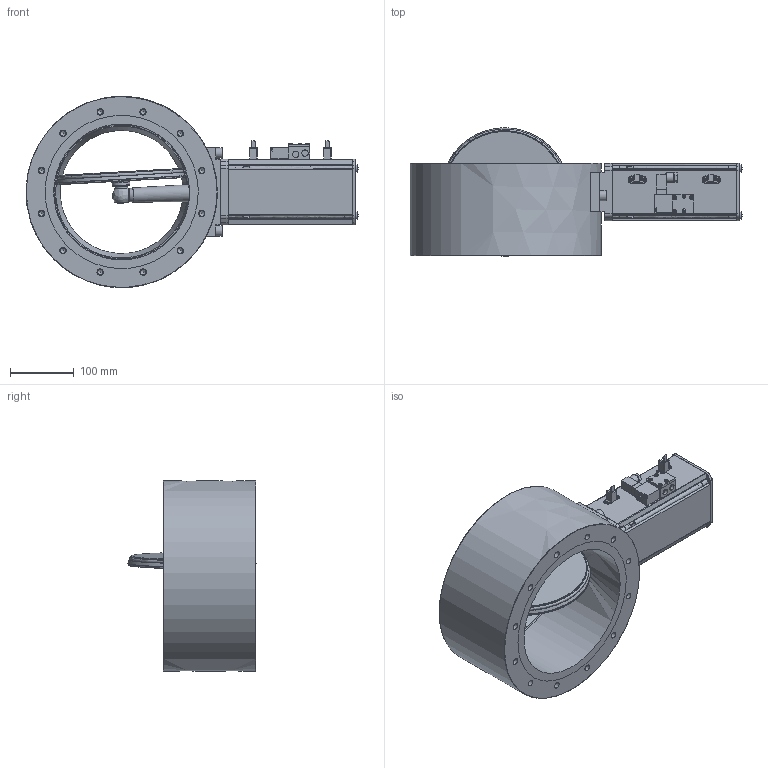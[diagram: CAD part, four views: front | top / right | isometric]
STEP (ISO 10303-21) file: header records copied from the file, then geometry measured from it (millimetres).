
FILE_DESCRIPTION((''),'2;1');
FILE_NAME('O:\MT\MT\Systeme\Cad\Datenexporte\www_vat_ch\245071.stp','2004-06-18T14:04:10',('User'),('SDRC'),'I-DEAS Master Series 9','UNIX','Yes');
FILE_SCHEMA(('CONFIG_CONTROL_DESIGN'));
Length unit declared in the file: millimetre
Assembly tree (52 placements, depth 0):
Bounding box: 520.44 x 201.05 x 299.57 mm (x, y, z)
Volume: 6639454.6 mm3; surface area: 738761.5 mm2
Topology: 63 solids, 63 shells, 1599 faces, 3786 edges, 2453 vertices
Faces by surface type: bspline 1599
Entity records: 37212 total; most frequent: CARTESIAN_POINT 17671, ORIENTED_EDGE 4702, EDGE_CURVE 2351, VERTEX_POINT 1549, EDGE_LOOP 1280, QUASI_UNIFORM_CURVE 1039, FACE_OUTER_BOUND 1021, ADVANCED_FACE 1021
